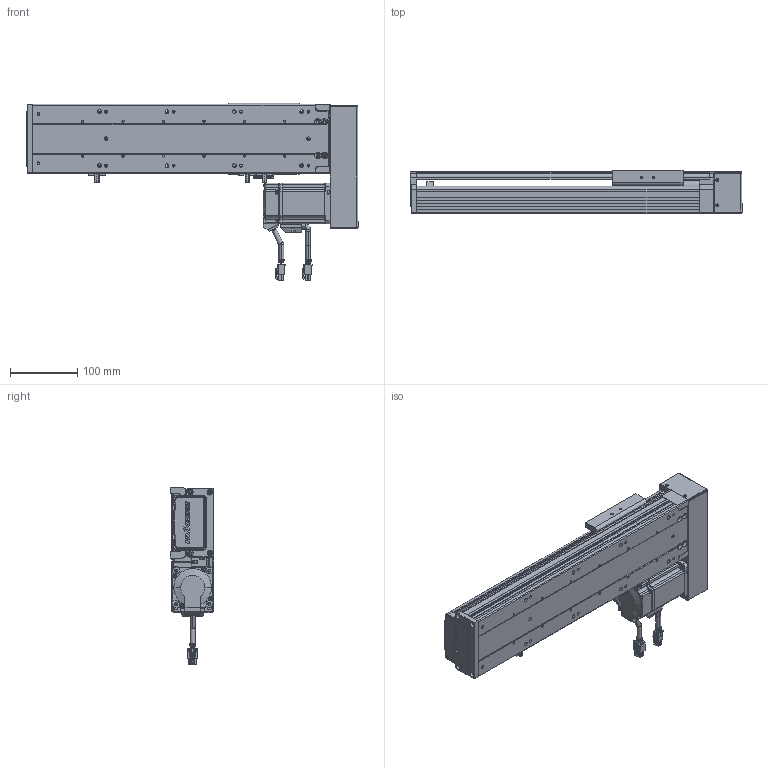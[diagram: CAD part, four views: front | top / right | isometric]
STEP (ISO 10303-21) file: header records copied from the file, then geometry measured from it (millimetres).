
FILE_DESCRIPTION (( 'STEP AP203' ), '1' );
FILE_NAME ('RY100S-L1620-300-RK(15双轨).SLDASM_250.step', '2021-02-20T08:47:45', ( '盈信电脑' ), ( '东莞市道滘镇水果街19号' ), 'SwSTEP 2.0', 'SolidWorks 2012', '' );
FILE_SCHEMA (( 'CONFIG_CONTROL_DESIGN' ));
Products named in the file (25): RY100S-L1620-300-RK(15邧寢).SLDASM_250; RY100S铝滑块（15双轨单滑块）底组装导轨; 3M30喘15遵; 侂狟200W萇儂; 蚾饜极1^RY100S-L1620-300-RK(15邧寢); 5; 4; 7; 6; 肮祭湍3M遵15笚酗282; 3; 2; 1; RY100S左右折电机罩（15双轨）; RY80肮祭湍芢雄輸; RY80肮祭湍覃踡啣; RY100S转折电机安装板（15双轨）; RY100綴裔啣; 滅袉蝶18-24; RY100S转折电机端支撑座(15双轨); 覜茼ん672; RY100俋离覜茼え; 滅袉蝶18-10; RY100S-300-LK转折型材上盖(15双轨)_250; RY100S-350-LK型材底座(低组15双轨)_250
Assembly tree (27 placements, depth 4):
  RY100S-L1620-300-RK(15邧寢).SLDASM_250
    RY100S-350-LK型材底座(低组15双轨)_250
    RY100S-300-LK转折型材上盖(15双轨)_250
    覜茼ん672  x3
    滅袉蝶18-10
    RY100俋离覜茼え
    RY100S转折电机端支撑座(15双轨)
    滅袉蝶18-24
    RY100綴裔啣
    蚾饜极1^RY100S-L1620-300-RK(15邧寢)
      RY80肮祭湍覃踡啣
      RY80肮祭湍芢雄輸  x2
      RY100S左右折电机罩（15双轨）
      RY100S转折电机安装板（15双轨）
      肮祭湍3M遵15笚酗282
      侂狟200W萇儂
        1
        2
        3
        4
        5
        6
        7
      3M30喘15遵
    RY100S铝滑块（15双轨单滑块）底组装导轨
Bounding box: 492.5 x 65 x 263.3 mm (x, y, z)
Volume: 1516523.5 mm3; surface area: 561519.8 mm2
Topology: 25 solids, 25 shells, 3106 faces, 8329 edges, 5362 vertices
Faces by surface type: plane 1668, cylinder 1155, cone 169, bspline 114
Entity records: 100315 total; most frequent: CARTESIAN_POINT 24724, ORIENTED_EDGE 15362, DIRECTION 14962, EDGE_CURVE 7681, AXIS2_PLACEMENT_3D 5071, VERTEX_POINT 4998, VECTOR 4820, LINE 4820
